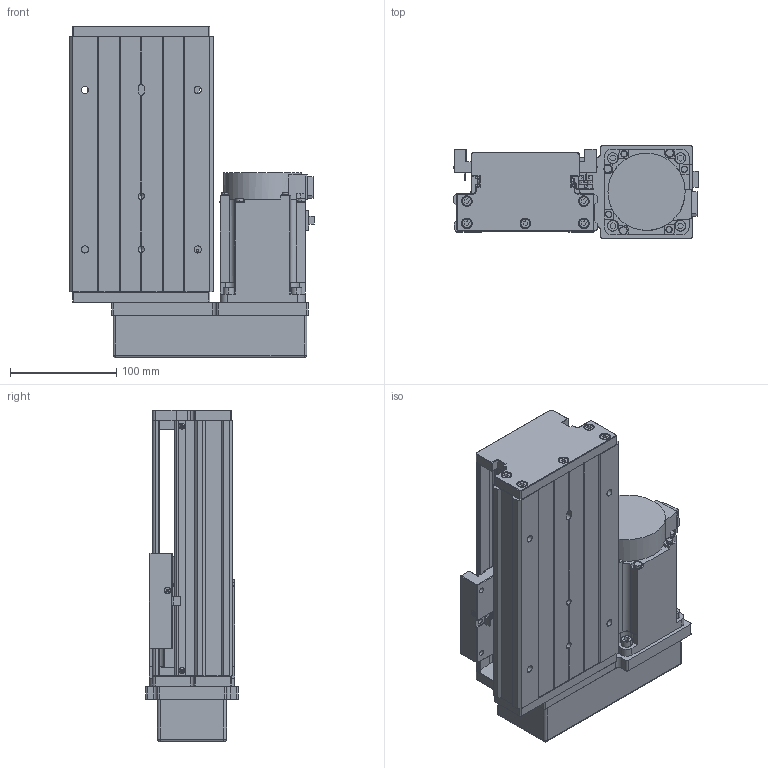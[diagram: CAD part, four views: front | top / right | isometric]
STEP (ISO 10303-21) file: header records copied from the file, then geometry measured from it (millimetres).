
FILE_DESCRIPTION (( 'STEP AP203' ), '1' );
FILE_NAME ('KTH130-100-BR-M75-C4.step', '2023-06-30T04:54:00', ( '微软用户' ), ( '微软中国' ), 'SwSTEP 2.0', 'SolidWorks 2020', '' );
FILE_SCHEMA (( 'CONFIG_CONTROL_DESIGN' ));
Length unit declared in the file: millimetre
Products named in the file (18): CTHA86-015-3_CTHA86-015-4; KTH130-004; CTHA60-016; CTHA86-035; KTH130-005; GBT 70.1-M3℅5; KTH130-100-BR-M75-C4; GB1155-6X6; GBT77-2000 M3×3; GBT70.1 M5℅16; す晦芛蹟隊 M3℅5; GBT 70.2-M3¡Á5_M3¡Á6; GBT 70.3-M3℅8; GTH14-001_100; CTHA60-017; hg-kn73j_-s100; KTH130-002_KTH130-002; EE_SX911P_R
Assembly tree (49 placements, depth 2):
  KTH130-100-BR-M75-C4
    GTH14-001_100
    KTH130-002_KTH130-002
    KTH130-004
    KTH130-005
    GB1155-6X6  x2
    GBT70.1 M5℅16  x10
    GBT 70.2-M3¡Á5_M3¡Á6  x4
    CTHA60-017  x3
    EE_SX911P_R  x3
    CTHA60-016  x2
    GBT 70.1-M3℅5  x6
    GBT77-2000 M3×3  x6
    す晦芛蹟隊 M3℅5  x2
    GBT 70.3-M3℅8  x4
    hg-kn73j_-s100
    CTHA86-015-3_CTHA86-015-4
    CTHA86-035
Bounding box: 230.3 x 87 x 312 mm (x, y, z)
Volume: 2908139.9 mm3; surface area: 425411.7 mm2
Topology: 52 solids, 52 shells, 2162 faces, 5244 edges, 3279 vertices
Faces by surface type: plane 1202, cylinder 606, cone 238, torus 100, sphere 16
Entity records: 39021 total; most frequent: CARTESIAN_POINT 6572, DIRECTION 6397, ORIENTED_EDGE 5992, EDGE_CURVE 2996, AXIS2_PLACEMENT_3D 2222, LINE 1953, VECTOR 1953, VERTEX_POINT 1913
